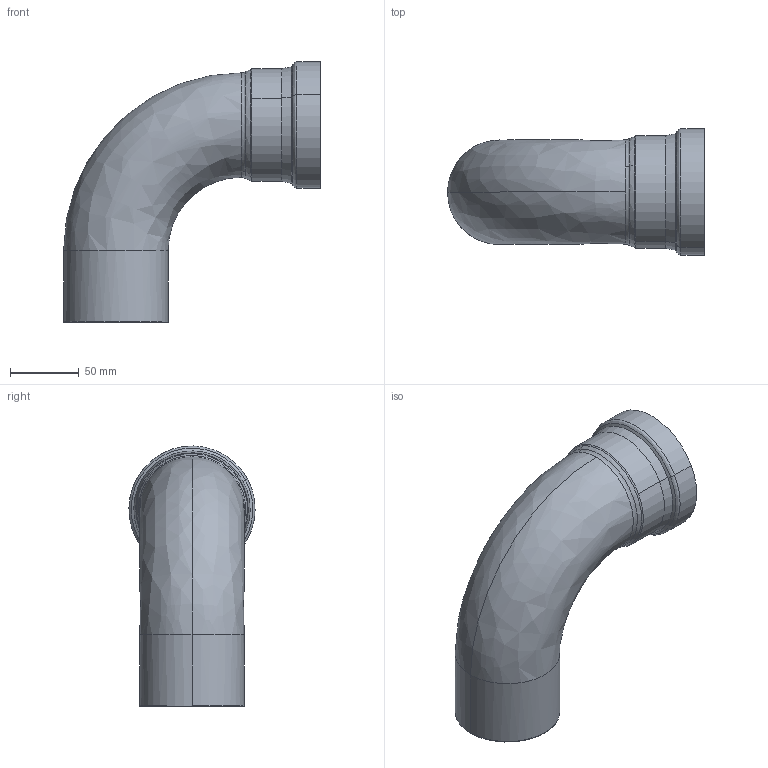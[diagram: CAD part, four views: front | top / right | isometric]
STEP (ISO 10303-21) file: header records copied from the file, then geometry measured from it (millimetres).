
FILE_DESCRIPTION(('STEP AP214'),'1');
FILE_NAME('702273.stp','2025-12-08T09:00:32',('CAD-PIM'),('TransMagic R14'),'Spatial InterOp 3D',' ',' ');
FILE_SCHEMA(('AUTOMOTIVE_DESIGN { 1 0 10303 214 1 1 1 1 }'));
Length unit declared in the file: millimetre
Products named in the file (1): 702273
Bounding box: 187.05 x 91.97 x 189.49 mm (x, y, z)
Volume: 992215.3 mm3; surface area: 85829.8 mm2
Topology: 1 solids, 1 shells, 27 faces, 60 edges, 36 vertices
Faces by surface type: bspline 27
Entity records: 1624 total; most frequent: CARTESIAN_POINT 419, STYLED_ITEM 120, PRESENTATION_STYLE_ASSIGNMENT 120, COLOUR_RGB 120, ORIENTED_EDGE 120, DIRECTION 90, EDGE_CURVE 60, CURVE_STYLE 58
